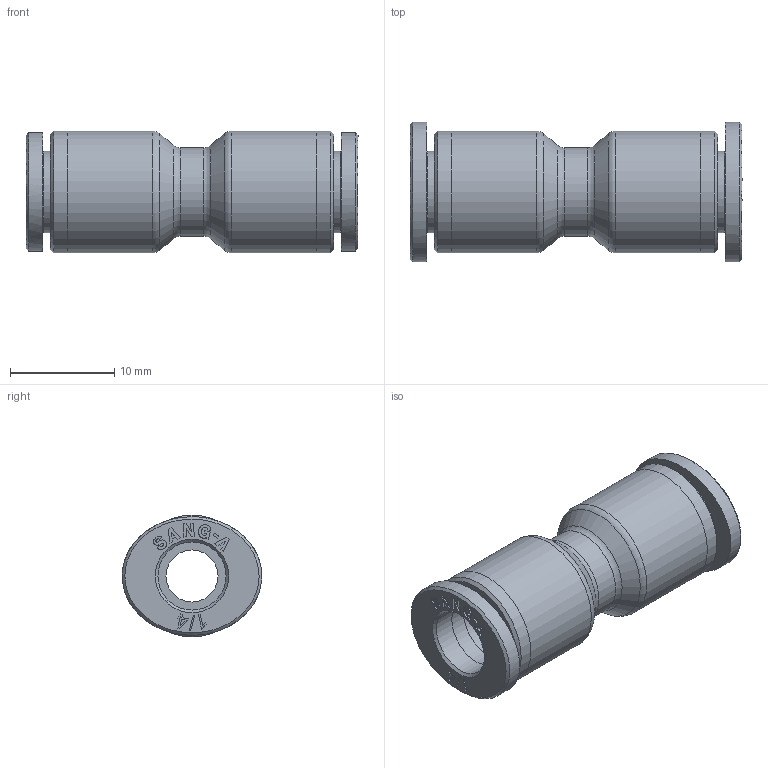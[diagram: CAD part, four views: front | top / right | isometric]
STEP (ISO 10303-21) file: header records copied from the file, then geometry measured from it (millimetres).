
FILE_DESCRIPTION((''),'2;1');
FILE_NAME('C:\Users\user0117\Desktop\김진일\홈페이지\1_4\Internet\GPUC 1_4.stp','2019-09-02T10:08:48',('user0117'),(''),'Autodesk Inventor 2013','Autodesk Inventor 2013','');
FILE_SCHEMA(('AUTOMOTIVE_DESIGN { 1 0 10303 214 1 1 1 1 }'));
Length unit declared in the file: millimetre
Products named in the file (5): GPUC 1_4; GPUC BODY 1-4(PLASTIC); G-COLLAR G1-4L; COLLAR G1-4L; SLEEVE G1-4
Assembly tree (5 placements, depth 3):
  GPUC 1_4
    GPUC BODY 1-4(PLASTIC)
    G-COLLAR G1-4L  x2
      COLLAR G1-4L
      SLEEVE G1-4
Bounding box: 31.9 x 13.39 x 11.7 mm (x, y, z)
Volume: 2056.9 mm3; surface area: 2598.6 mm2
Topology: 5 solids, 5 shells, 274 faces, 698 edges, 462 vertices
Faces by surface type: plane 192, bspline 44, cylinder 26, cone 8, torus 4
Full cylindrical faces by diameter (mm): 5 x1, 6.55 x6, 7.85 x2, 8.5 x1, 11.7 x4
Entity records: 4692 total; most frequent: CARTESIAN_POINT 1176, ORIENTED_EDGE 680, DIRECTION 675, EDGE_CURVE 340, VECTOR 257, LINE 257, VERTEX_POINT 236, AXIS2_PLACEMENT_3D 209
